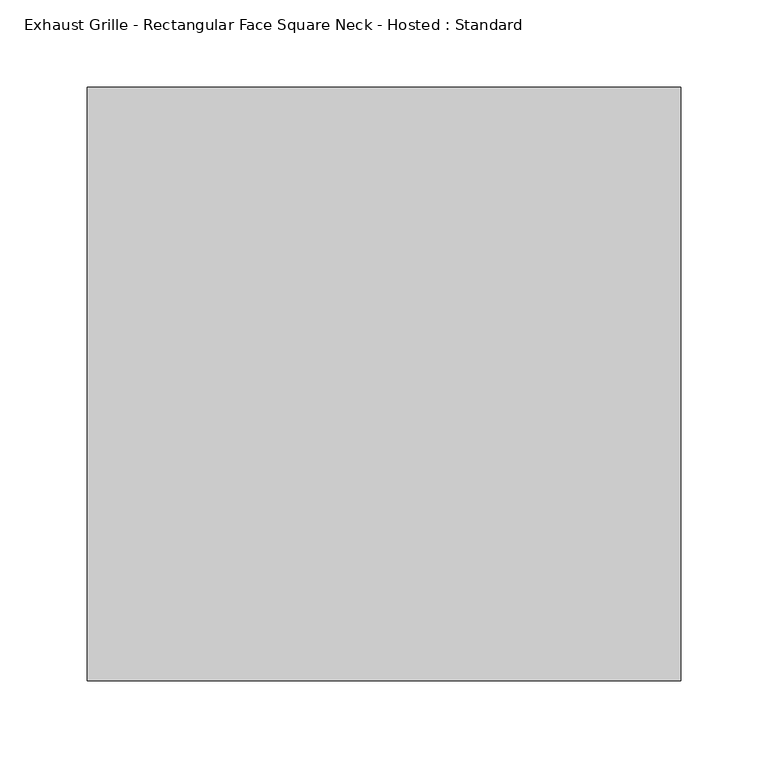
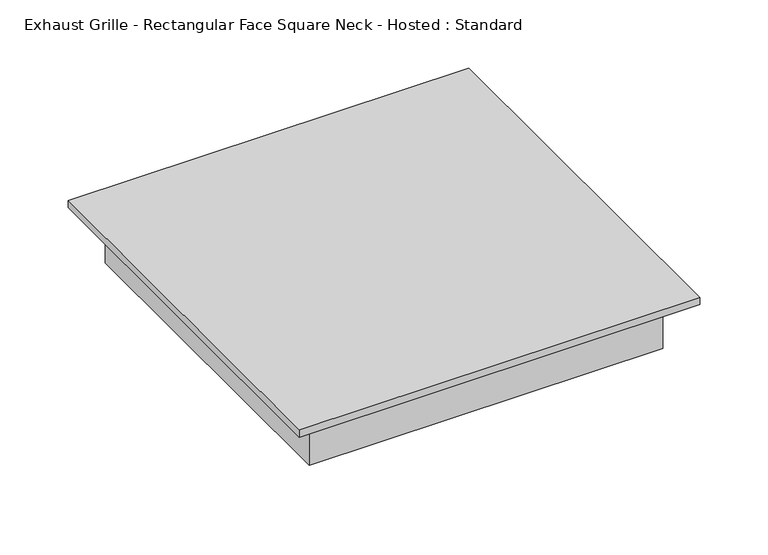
"""IFC4 building model written with IfcOpenShell, lengths in millimetres: air terminal geometry, Exhaust Grille - Rectangular Face Square Neck - Hosted : Standard."""

from ifc_helpers import new_model, si_unit, origin, place, context, project, spatial, faceted_brep, source, transform, mapped, element, save


def exhaust_grille_rectangular_face_square_neck_hosted_standard_7c992ada(model_context):
    return source(origin(), model_context, "Body", "Brep", [
        faceted_brep([(170.0, 170.0, 6.35), (-170.0, 170.0, 6.35), (-170.0, -170.0, 6.35), (170.0, -170.0, 6.35), (170.0, 170.0, 0.0), (170.0, -170.0, 0.0), (-170.0, -170.0, 0.0), (-170.0, 170.0, 0.0), (150.0, 150.0, 0.0), (-150.0, 150.0, 0.0), (-150.0, -150.0, 0.0), (150.0, -150.0, 0.0), (150.0, 150.0, -44.45), (150.0, -150.0, -44.45), (-150.0, -150.0, -44.45), (-150.0, 150.0, -44.45)], [[[0, 1, 2, 3]], [[4, 5, 6, 7], [8, 9, 10, 11]], [[1, 0, 4, 7]], [[2, 1, 7, 6]], [[3, 2, 6, 5]], [[0, 3, 5, 4]], [[12, 13, 14, 15]], [[12, 15, 9, 8]], [[15, 14, 10, 9]], [[14, 13, 11, 10]], [[13, 12, 8, 11]]]),
    ])


if __name__ == "__main__":
    model = new_model("IFC4")
    model_context = context("Model", 3, world=origin())
    ifc_project = project(units=[si_unit("LENGTHUNIT", "METRE", prefix="MILLI")], contexts=[model_context])
    site = spatial("IfcSite", under=ifc_project)
    building = spatial("IfcBuilding", under=site)
    placement = place(None, origin())
    exhaust_grille_rectangular_face_square_neck_hosted_standard_shape = exhaust_grille_rectangular_face_square_neck_hosted_standard_7c992ada(model_context)
    element("IfcAirTerminal", 1, ObjectType="Exhaust Grille - Rectangular Face Square Neck - Hosted : Standard", at=placement, inside=building, context=model_context, shape_type="MappedRepresentation", body=[
        mapped(exhaust_grille_rectangular_face_square_neck_hosted_standard_shape, transform((0.0, 0.0, 0.0), x_axis=(1.0, 0.0, 0.0), y_axis=(0.0, 1.0, 0.0), z_axis=(0.0, 0.0, 1.0))),
    ])
    save(model, "model.ifc")
